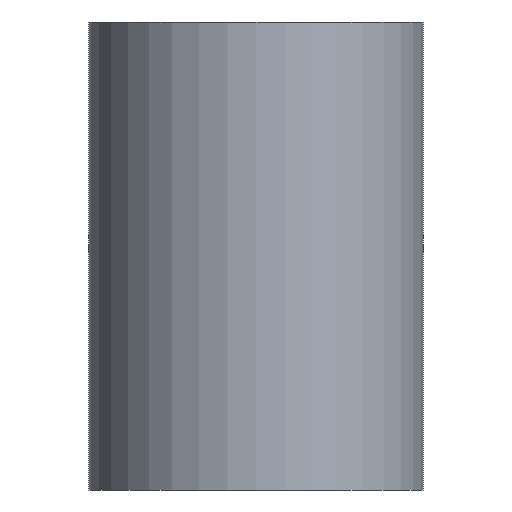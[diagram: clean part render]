
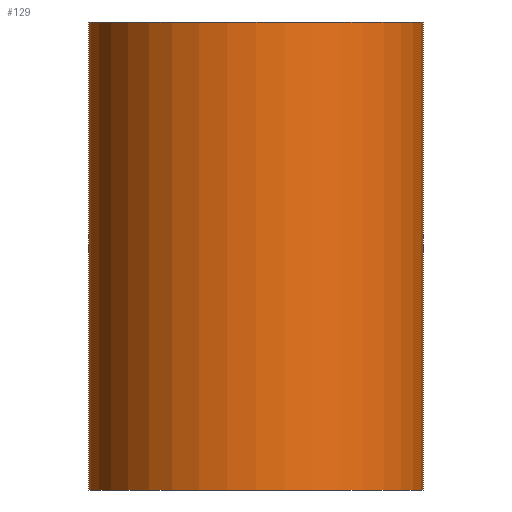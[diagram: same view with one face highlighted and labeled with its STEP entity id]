
A CAD part, front view. The second image highlights one B-rep face of the part: STEP entity #129.
In plain terms, the highlighted cylindrical face has radius 12.5 mm (diameter 25 mm), a partial arc.
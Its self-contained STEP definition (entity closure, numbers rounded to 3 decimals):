
#102=CYLINDRICAL_SURFACE('',#250,12.5);
#108=FACE_OUTER_BOUND('',#150,.T.);
#113=LINE('',#337,#119);
#114=LINE('',#338,#120);
#119=VECTOR('',#295,1.);
#120=VECTOR('',#296,1.);
#129=ADVANCED_FACE('',(#108),#102,.T.);
#150=EDGE_LOOP('',(#183,#184,#185,#186));
#183=ORIENTED_EDGE('',*,*,#215,.F.);
#184=ORIENTED_EDGE('',*,*,#214,.T.);
#185=ORIENTED_EDGE('',*,*,#216,.T.);
#186=ORIENTED_EDGE('',*,*,#199,.F.);
#187=VERTEX_POINT('',#303);
#188=VERTEX_POINT('',#304);
#197=VERTEX_POINT('',#333);
#198=VERTEX_POINT('',#334);
#199=EDGE_CURVE('',#187,#188,#217,.T.);
#214=EDGE_CURVE('',#198,#197,#228,.T.);
#215=EDGE_CURVE('',#198,#187,#113,.T.);
#216=EDGE_CURVE('',#197,#188,#114,.T.);
#217=CIRCLE('',#230,12.5);
#228=CIRCLE('',#247,12.5);
#230=AXIS2_PLACEMENT_3D('',#302,#253,#254);
#247=AXIS2_PLACEMENT_3D('',#335,#291,#292);
#250=AXIS2_PLACEMENT_3D('',#340,#299,#300);
#253=DIRECTION('',(0.,0.,1.));
#254=DIRECTION('',(0.,1.,0.));
#291=DIRECTION('',(0.,0.,1.));
#292=DIRECTION('',(0.,1.,0.));
#295=DIRECTION('',(0.,0.,1.));
#296=DIRECTION('',(0.,0.,1.));
#299=DIRECTION('',(0.,0.,1.));
#300=DIRECTION('',(0.,-1.,0.));
#302=CARTESIAN_POINT('',(0.,0.,35.));
#303=CARTESIAN_POINT('',(-12.5,0.,35.));
#304=CARTESIAN_POINT('',(12.5,0.,35.));
#333=CARTESIAN_POINT('',(12.5,0.,0.));
#334=CARTESIAN_POINT('',(-12.5,0.,0.));
#335=CARTESIAN_POINT('',(0.,0.,0.));
#337=CARTESIAN_POINT('',(-12.5,0.,0.));
#338=CARTESIAN_POINT('',(12.5,0.,0.));
#340=CARTESIAN_POINT('',(0.,0.,0.));
